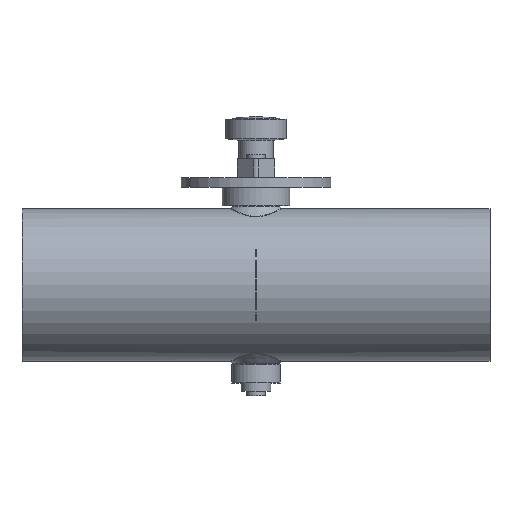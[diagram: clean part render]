
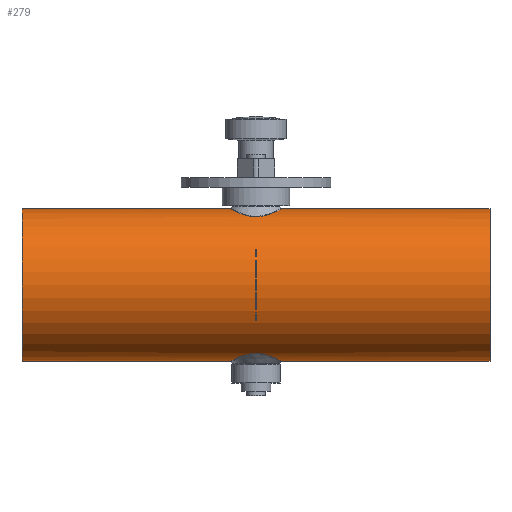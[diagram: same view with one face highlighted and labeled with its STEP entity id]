
A CAD part, top view. The second image highlights one B-rep face of the part: STEP entity #279.
In plain terms, the highlighted cylindrical face has radius 40.8 mm (diameter 81.6 mm), a full revolution.
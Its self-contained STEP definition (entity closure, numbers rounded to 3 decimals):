
#239=CYLINDRICAL_SURFACE('',#1242,40.8);
#269=B_SPLINE_CURVE_WITH_KNOTS('',3,(#1747,#1748,#1749,#1750,#1751,#1752,
#1753,#1754,#1755,#1756,#1757,#1758,#1759,#1760,#1761,#1762,#1763,#1764,
#1765,#1766,#1767,#1768,#1769,#1770,#1771,#1772,#1773,#1774),.UNSPECIFIED.,
 .T.,.F.,(2,2,2,2,2,2,2,2,2,2,2,2,2,2,2,2),(-0.063,0.,0.125,
0.25,0.313,0.375,0.438,
0.5,0.563,0.625,0.75,0.813,0.875,
0.938,1.,1.125),.UNSPECIFIED.);
#270=B_SPLINE_CURVE_WITH_KNOTS('',3,(#1776,#1777,#1778,#1779,#1780,#1781,
#1782,#1783,#1784,#1785,#1786,#1787,#1788,#1789,#1790,#1791,#1792,#1793,
#1794,#1795,#1796,#1797,#1798,#1799,#1800,#1801,#1802,#1803,#1804,#1805),
 .UNSPECIFIED.,.T.,.F.,(2,2,2,2,2,2,2,2,2,2,2,2,2,2,2,2,2),(-0.063,
0.,0.062,0.125,0.188,0.25,0.375,0.438,0.5,0.563,
0.625,0.688,0.75,0.875,0.938,1.,1.063),.UNSPECIFIED.);
#279=ADVANCED_FACE('',(#413,#414,#415,#416),#239,.T.);
#413=FACE_BOUND('',#553,.T.);
#414=FACE_BOUND('',#554,.T.);
#415=FACE_BOUND('',#555,.T.);
#416=FACE_BOUND('',#556,.T.);
#553=EDGE_LOOP('',(#715));
#554=EDGE_LOOP('',(#716));
#555=EDGE_LOOP('',(#717));
#556=EDGE_LOOP('',(#718));
#715=ORIENTED_EDGE('',*,*,#1053,.T.);
#716=ORIENTED_EDGE('',*,*,#1054,.T.);
#717=ORIENTED_EDGE('',*,*,#1049,.T.);
#718=ORIENTED_EDGE('',*,*,#1051,.T.);
#947=VERTEX_POINT('',#1738);
#949=VERTEX_POINT('',#1743);
#951=VERTEX_POINT('',#1775);
#952=VERTEX_POINT('',#1806);
#1049=EDGE_CURVE('',#947,#947,#1167,.T.);
#1051=EDGE_CURVE('',#949,#949,#1169,.T.);
#1053=EDGE_CURVE('',#951,#951,#269,.T.);
#1054=EDGE_CURVE('',#952,#952,#270,.T.);
#1167=CIRCLE('',#1236,40.8);
#1169=CIRCLE('',#1239,40.8);
#1236=AXIS2_PLACEMENT_3D('',#1737,#1390,#1391);
#1239=AXIS2_PLACEMENT_3D('',#1742,#1396,#1397);
#1242=AXIS2_PLACEMENT_3D('',#1807,#1402,#1403);
#1390=DIRECTION('',(-1.,0.,0.));
#1391=DIRECTION('',(0.,0.,1.));
#1396=DIRECTION('',(1.,0.,0.));
#1397=DIRECTION('',(0.,0.,-1.));
#1402=DIRECTION('',(1.,0.,0.));
#1403=DIRECTION('',(0.,0.,-1.));
#1737=CARTESIAN_POINT('',(125.,1.7,125.));
#1738=CARTESIAN_POINT('',(125.,1.7,165.8));
#1742=CARTESIAN_POINT('',(-125.,1.7,125.));
#1743=CARTESIAN_POINT('',(-125.,1.7,84.2));
#1747=CARTESIAN_POINT('',(-5.395,-35.522,108.233));
#1748=CARTESIAN_POINT('',(-10.314,-37.121,112.136));
#1749=CARTESIAN_POINT('',(-12.526,-38.286,115.893));
#1750=CARTESIAN_POINT('',(-14.573,-39.3,124.113));
#1751=CARTESIAN_POINT('',(-14.278,-39.137,128.606));
#1752=CARTESIAN_POINT('',(-11.972,-38.029,134.501));
#1753=CARTESIAN_POINT('',(-10.92,-37.535,136.319));
#1754=CARTESIAN_POINT('',(-8.287,-36.464,139.527));
#1755=CARTESIAN_POINT('',(-6.711,-35.88,140.922));
#1756=CARTESIAN_POINT('',(-2.997,-34.995,142.868));
#1757=CARTESIAN_POINT('',(-0.776,-34.74,143.354));
#1758=CARTESIAN_POINT('',(3.453,-35.035,142.757));
#1759=CARTESIAN_POINT('',(5.401,-35.524,141.764));
#1760=CARTESIAN_POINT('',(8.676,-36.588,139.164));
#1761=CARTESIAN_POINT('',(10.013,-37.153,137.588));
#1762=CARTESIAN_POINT('',(12.212,-38.133,134.022));
#1763=CARTESIAN_POINT('',(13.03,-38.535,132.078));
#1764=CARTESIAN_POINT('',(14.58,-39.303,125.868));
#1765=CARTESIAN_POINT('',(14.29,-39.142,121.43));
#1766=CARTESIAN_POINT('',(11.972,-38.029,115.496));
#1767=CARTESIAN_POINT('',(10.935,-37.541,113.701));
#1768=CARTESIAN_POINT('',(8.286,-36.463,110.47));
#1769=CARTESIAN_POINT('',(6.716,-35.882,109.082));
#1770=CARTESIAN_POINT('',(2.997,-34.995,107.132));
#1771=CARTESIAN_POINT('',(0.781,-34.74,106.646));
#1772=CARTESIAN_POINT('',(-3.455,-35.035,107.243));
#1773=CARTESIAN_POINT('',(-5.395,-35.522,108.233));
#1774=CARTESIAN_POINT('',(-10.314,-37.121,112.136));
#1775=CARTESIAN_POINT('',(-7.035,-36.055,109.534));
#1776=CARTESIAN_POINT('',(-8.677,39.989,110.837));
#1777=CARTESIAN_POINT('',(-5.393,38.921,108.231));
#1778=CARTESIAN_POINT('',(-3.45,38.434,107.241));
#1779=CARTESIAN_POINT('',(0.792,38.14,106.646));
#1780=CARTESIAN_POINT('',(3.004,38.396,107.134));
#1781=CARTESIAN_POINT('',(6.717,39.282,109.083));
#1782=CARTESIAN_POINT('',(8.288,39.864,110.473));
#1783=CARTESIAN_POINT('',(10.931,40.94,113.696));
#1784=CARTESIAN_POINT('',(11.98,41.432,115.513));
#1785=CARTESIAN_POINT('',(14.288,42.542,121.434));
#1786=CARTESIAN_POINT('',(14.582,42.704,125.865));
#1787=CARTESIAN_POINT('',(13.027,41.934,132.088));
#1788=CARTESIAN_POINT('',(12.211,41.533,134.023));
#1789=CARTESIAN_POINT('',(10.01,40.552,137.592));
#1790=CARTESIAN_POINT('',(8.677,39.989,139.161));
#1791=CARTESIAN_POINT('',(5.414,38.928,141.755));
#1792=CARTESIAN_POINT('',(3.469,38.437,142.752));
#1793=CARTESIAN_POINT('',(-0.771,38.14,143.355));
#1794=CARTESIAN_POINT('',(-2.988,38.393,142.871));
#1795=CARTESIAN_POINT('',(-6.705,39.278,140.927));
#1796=CARTESIAN_POINT('',(-8.278,39.86,139.536));
#1797=CARTESIAN_POINT('',(-10.923,40.936,136.316));
#1798=CARTESIAN_POINT('',(-11.974,41.429,134.5));
#1799=CARTESIAN_POINT('',(-14.288,42.542,128.573));
#1800=CARTESIAN_POINT('',(-14.582,42.704,124.14));
#1801=CARTESIAN_POINT('',(-13.03,41.935,117.919));
#1802=CARTESIAN_POINT('',(-12.213,41.533,115.98));
#1803=CARTESIAN_POINT('',(-10.013,40.553,112.411));
#1804=CARTESIAN_POINT('',(-8.677,39.989,110.837));
#1805=CARTESIAN_POINT('',(-5.393,38.921,108.231));
#1806=CARTESIAN_POINT('',(-7.035,39.455,109.534));
#1807=CARTESIAN_POINT('',(-125.,1.7,125.));
